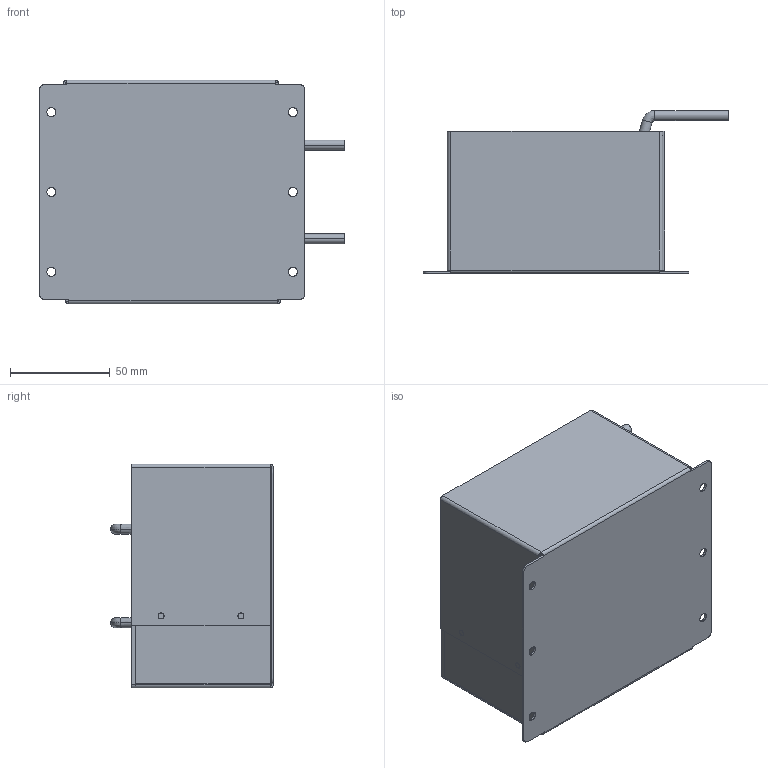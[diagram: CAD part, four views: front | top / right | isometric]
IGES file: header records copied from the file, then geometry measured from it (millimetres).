
Start section: SolidWorks IGES file using analytic representation for surfaces
Global section: file name: 19H\\10.106.230.1\r&d file\05_COMP\02_Mechanical\10_Others\PV_RT 81\网络用3D模型\灌封模型\S-5KW-S-DCL\S-5KW_S_DCL 总装.IGS; native system: SolidWorks 2009; preprocessor: SolidWorks 2009; author: 钱雅婧, ,; organization: 11; date: 120507.171328; units: millimetre
Bounding box: 152.9 x 81.5 x 112 mm (x, y, z)
Surface area: 151051.9 mm2 (no closed solid volume)
Topology: 0 solids, 0 shells, 114 faces, 828 edges, 828 vertices
Faces by surface type: bspline 66, revolution 48
